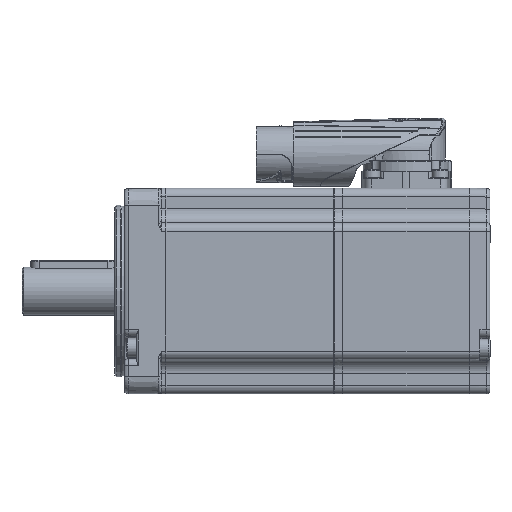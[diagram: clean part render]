
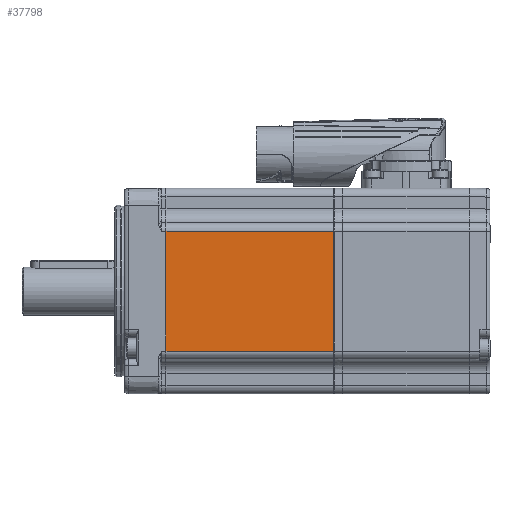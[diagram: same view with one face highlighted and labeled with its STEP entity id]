
A CAD part, left-side view. The second image highlights one B-rep face of the part: STEP entity #37798.
In plain terms, the highlighted planar face has unit normal (-1, 0, 0) as drawn and (0, 1, 0) by its records, which use the part's own axes.
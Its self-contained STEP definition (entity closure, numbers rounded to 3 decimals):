
#12634=LINE('',#63092,#14578);
#12635=LINE('',#63095,#14579);
#12636=LINE('',#63097,#14580);
#12637=LINE('',#63099,#14581);
#14578=VECTOR('',#46751,1000.);
#14579=VECTOR('',#46752,1000.);
#14580=VECTOR('',#46753,1000.);
#14581=VECTOR('',#46754,1000.);
#21275=ORIENTED_EDGE('',*,*,#26326,.T.);
#21276=ORIENTED_EDGE('',*,*,#26327,.T.);
#21277=ORIENTED_EDGE('',*,*,#26328,.T.);
#21278=ORIENTED_EDGE('',*,*,#26329,.T.);
#26326=EDGE_CURVE('',#29391,#29392,#12634,.F.);
#26327=EDGE_CURVE('',#29392,#29393,#12635,.T.);
#26328=EDGE_CURVE('',#29393,#29394,#12636,.T.);
#26329=EDGE_CURVE('',#29394,#29391,#12637,.T.);
#29391=VERTEX_POINT('',#63093);
#29392=VERTEX_POINT('',#63094);
#29393=VERTEX_POINT('',#63096);
#29394=VERTEX_POINT('',#63098);
#32767=EDGE_LOOP('',(#21275,#21276,#21277,#21278));
#35053=FACE_BOUND('',#32767,.T.);
#36338=PLANE('',#40345);
#37798=ADVANCED_FACE('',(#35053),#36338,.T.);
#40345=AXIS2_PLACEMENT_3D('',#63091,#46749,#46750);
#46749=DIRECTION('',(0.,1.,0.));
#46750=DIRECTION('',(0.,0.,1.));
#46751=DIRECTION('',(-1.,0.,0.));
#46752=DIRECTION('',(0.,0.,-1.));
#46753=DIRECTION('',(-1.,0.,0.));
#46754=DIRECTION('',(0.,0.,1.));
#63091=CARTESIAN_POINT('',(-200.,30.,-30.));
#63092=CARTESIAN_POINT('',(0.,30.,17.5));
#63093=CARTESIAN_POINT('',(-50.,30.,17.5));
#63094=CARTESIAN_POINT('',(-1.,30.,17.5));
#63095=CARTESIAN_POINT('',(-1.,30.,-30.));
#63096=CARTESIAN_POINT('',(-1.,30.,-17.5));
#63097=CARTESIAN_POINT('',(-200.,30.,-17.5));
#63098=CARTESIAN_POINT('',(-50.,30.,-17.5));
#63099=CARTESIAN_POINT('',(-50.,30.,-30.));
